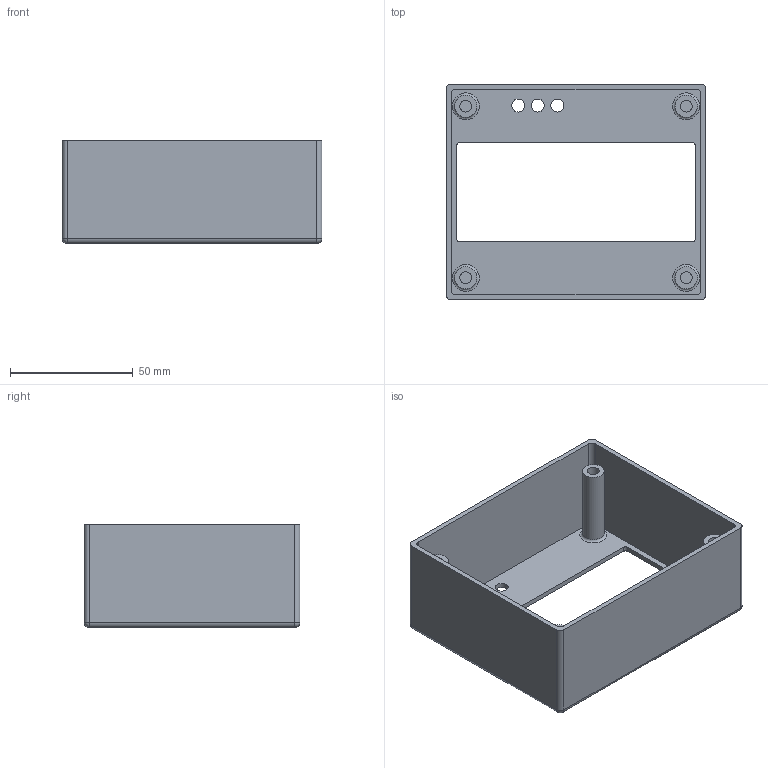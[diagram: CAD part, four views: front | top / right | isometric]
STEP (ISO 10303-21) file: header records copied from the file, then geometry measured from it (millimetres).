
FILE_DESCRIPTION(('FreeCAD Model'),'2;1');
FILE_NAME('Open CASCADE Shape Model','2021-07-31T18:33:13',('Author'),( ''),'Open CASCADE STEP processor 7.4','FreeCAD','Unknown');
FILE_SCHEMA(('AUTOMOTIVE_DESIGN { 1 0 10303 214 1 1 1 1 }'));
Length unit declared in the file: millimetre
Products named in the file (1): Body
Bounding box: 106 x 88 x 42 mm (x, y, z)
Volume: 47480.7 mm3; surface area: 46675.7 mm2
Topology: 1 solids, 1 shells, 58 faces, 129 edges, 78 vertices
Faces by surface type: cylinder 27, plane 23, torus 4, sphere 4
Full cylindrical faces by diameter (mm): 4.8 x4, 5.3 x3, 9 x4
Entity records: 3276 total; most frequent: CARTESIAN_POINT 572, DIRECTION 545, LINE 271, VECTOR 271, ORIENTED_EDGE 250, PCURVE 250, DEFINITIONAL_REPRESENTATION 250, EDGE_CURVE 125
